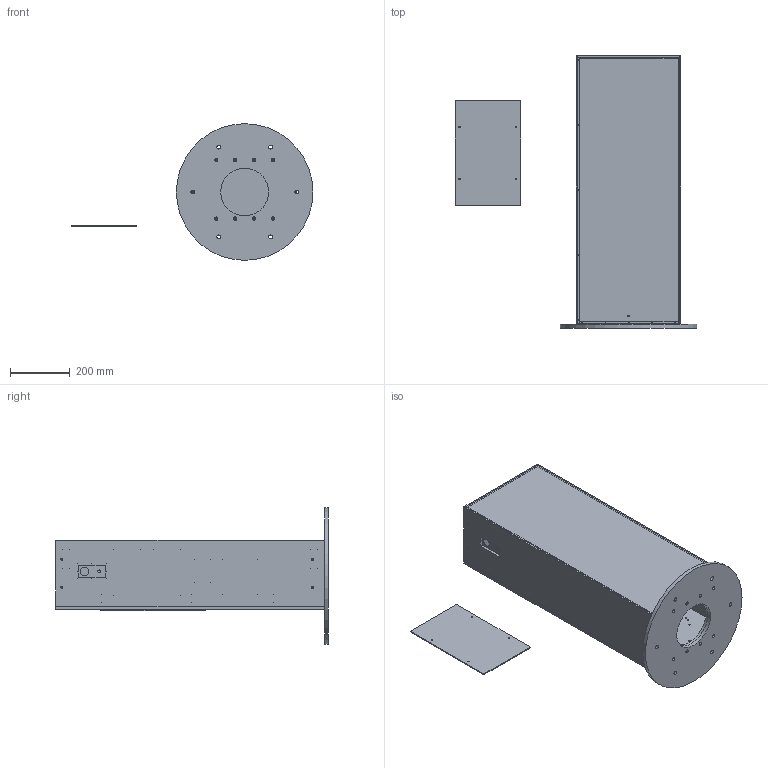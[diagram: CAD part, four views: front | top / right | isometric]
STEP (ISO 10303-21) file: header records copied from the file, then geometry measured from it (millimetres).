
FILE_DESCRIPTION(/* description */ ('STEP AP242','CAx-IF Rec.Pracs.---Representation and Presentation of Product Manufacturing Information (PMI)---4.0---2014-10-13','CAx-IF Rec.Pracs.---3D Tessellated Geometry---0.4---2014-09-14','2;1'),/* implementation_level */ '2;1');
FILE_NAME(/* name */ '66a79b5a491de52f35b09fc0',/* time_stamp */ '2024-07-29T13:38:35Z',/* author */ (''),/* organization */ (''),/* preprocessor_version */ 'ST-DEVELOPER v20',/* originating_system */ ' ',/* authorisation */ ' ');
FILE_SCHEMA (('AP242_MANAGED_MODEL_BASED_3D_ENGINEERING_MIM_LF { 1 0 10303 442 1 1 4 }'));
Length unit declared in the file: metre
Products named in the file (10): Part 10; jack plate left wall; jack plate right wall; cover; flange; left wall; front wall; right wall; rear wall; baseplate
Bounding box: 810 x 912.7 x 457.2 mm (x, y, z)
Volume: 11387375.9 mm3; surface area: 2898295.4 mm2
Topology: 10 solids, 10 shells, 581 faces, 1691 edges, 1139 vertices
Faces by surface type: cylinder 286, cone 202, plane 93
Full cylindrical faces by diameter (mm): 2.05 x83, 2.5 x6, 2.7 x28, 3.3 x12, 4.3 x4, 5 x109, 6.4 x17, 9.8 x8, 10 x1, 11.25 x8, 13.096 x6, 28 x1, 160 x2, 457.2 x1
Entity records: 14371 total; most frequent: DIRECTION 2518, CARTESIAN_POINT 2257, ORIENTED_EDGE 1528, FACE_BOUND 1434, EDGE_LOOP 1232, AXIS2_PLACEMENT_3D 1163, VERTEX_POINT 902, EDGE_CURVE 764
